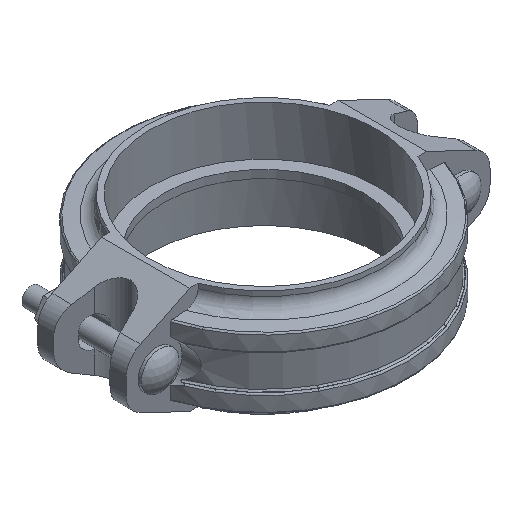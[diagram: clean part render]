
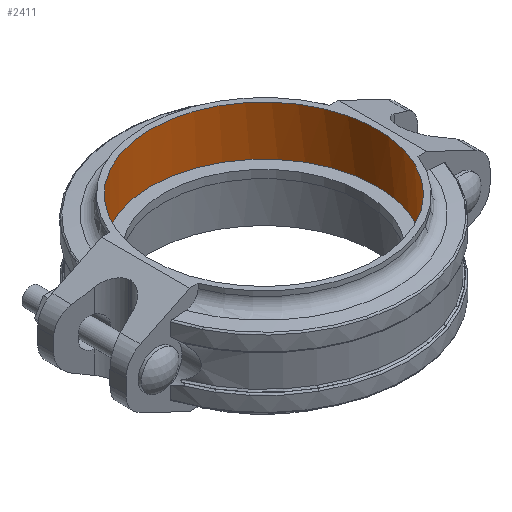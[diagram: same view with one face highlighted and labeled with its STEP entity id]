
A CAD part, isometric view. The second image highlights one B-rep face of the part: STEP entity #2411.
In plain terms, the highlighted cylindrical face has radius 57.15 mm (diameter 114.3 mm), a full revolution.
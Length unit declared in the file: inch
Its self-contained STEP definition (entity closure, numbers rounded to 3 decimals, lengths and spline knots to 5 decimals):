
#224=FACE_OUTER_BOUND('',#347,.T.);
#347=EDGE_LOOP('',(#1538,#1539,#1540,#1541,#1542,#1543));
#478=LINE('',#3505,#657);
#657=VECTOR('',#2824,2.25);
#839=CIRCLE('',#2556,2.25);
#840=CIRCLE('',#2557,2.25);
#841=CIRCLE('',#2559,2.25);
#842=CIRCLE('',#2560,2.25);
#933=VERTEX_POINT('',#3499);
#934=VERTEX_POINT('',#3500);
#935=VERTEX_POINT('',#3504);
#936=VERTEX_POINT('',#3506);
#1176=EDGE_CURVE('',#933,#934,#839,.T.);
#1177=EDGE_CURVE('',#934,#933,#840,.T.);
#1178=EDGE_CURVE('',#934,#935,#478,.T.);
#1179=EDGE_CURVE('',#936,#935,#841,.T.);
#1180=EDGE_CURVE('',#935,#936,#842,.T.);
#1538=ORIENTED_EDGE('',*,*,#1176,.T.);
#1539=ORIENTED_EDGE('',*,*,#1178,.T.);
#1540=ORIENTED_EDGE('',*,*,#1179,.F.);
#1541=ORIENTED_EDGE('',*,*,#1180,.F.);
#1542=ORIENTED_EDGE('',*,*,#1178,.F.);
#1543=ORIENTED_EDGE('',*,*,#1177,.T.);
#2243=CYLINDRICAL_SURFACE('',#2558,2.25);
#2411=ADVANCED_FACE('',(#224),#2243,.F.);
#2556=AXIS2_PLACEMENT_3D('',#3501,#2818,#2819);
#2557=AXIS2_PLACEMENT_3D('',#3502,#2820,#2821);
#2558=AXIS2_PLACEMENT_3D('',#3503,#2822,#2823);
#2559=AXIS2_PLACEMENT_3D('',#3507,#2825,#2826);
#2560=AXIS2_PLACEMENT_3D('',#3508,#2827,#2828);
#2818=DIRECTION('center_axis',(0.,0.,-1.));
#2819=DIRECTION('ref_axis',(0.,-1.,0.));
#2820=DIRECTION('center_axis',(0.,0.,-1.));
#2821=DIRECTION('ref_axis',(0.,-1.,0.));
#2822=DIRECTION('center_axis',(0.,0.,-1.));
#2823=DIRECTION('ref_axis',(0.,-1.,0.));
#2824=DIRECTION('',(0.,0.,1.));
#2825=DIRECTION('center_axis',(0.,0.,-1.));
#2826=DIRECTION('ref_axis',(-1.,0.,0.));
#2827=DIRECTION('center_axis',(0.,0.,-1.));
#2828=DIRECTION('ref_axis',(-1.,0.,0.));
#3499=CARTESIAN_POINT('',(-2.25,0.,0.08));
#3500=CARTESIAN_POINT('',(0.,2.25,0.08));
#3501=CARTESIAN_POINT('Origin',(0.,0.,0.08));
#3502=CARTESIAN_POINT('Origin',(0.,0.,0.08));
#3503=CARTESIAN_POINT('Origin',(0.,0.,0.));
#3504=CARTESIAN_POINT('',(0.,2.25,1.065));
#3505=CARTESIAN_POINT('',(0.,2.25,0.));
#3506=CARTESIAN_POINT('',(2.07077,0.88,1.065));
#3507=CARTESIAN_POINT('Origin',(0.,0.,1.065));
#3508=CARTESIAN_POINT('Origin',(0.,0.,1.065));
